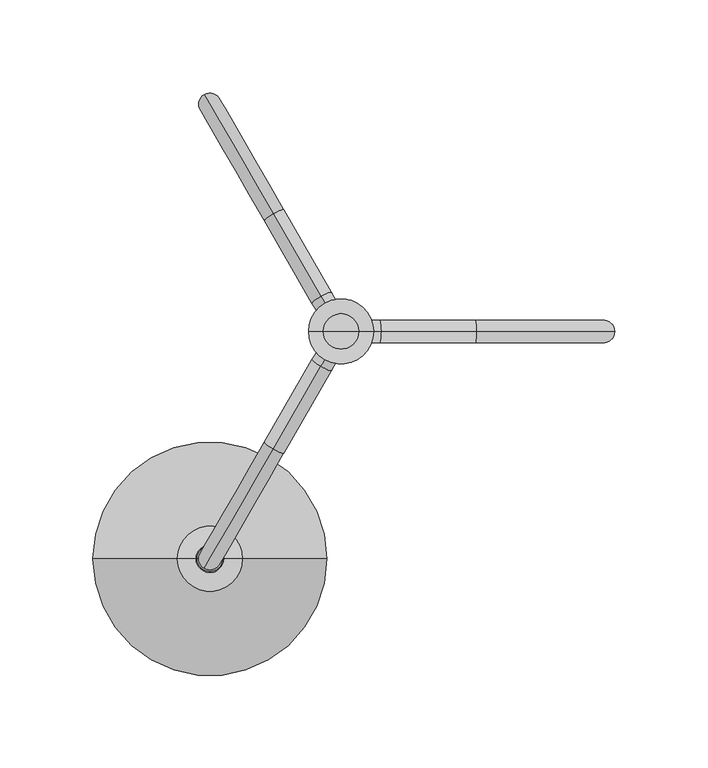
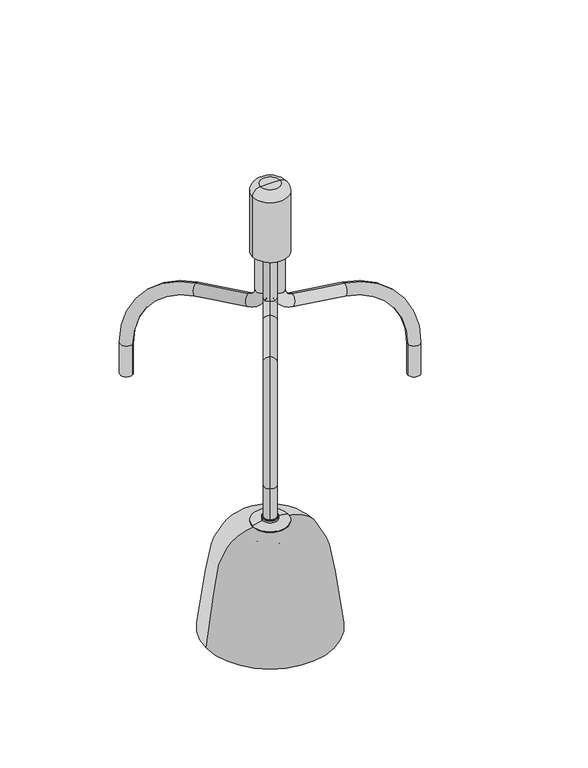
"""IFC4 building model written with IfcOpenShell, lengths in millimetres: light fixture geometry, Nuura - Asteea 3 - Ceiling Based : Nuura - Asteea 3 - Ceiling Based."""

from ifc_helpers import new_model, si_unit, point, frame, origin, place, context, project, spatial, polyline, circle_curve, ellipse_curve, trimmed, source, transform, mapped, element, save
from ifc_brep_helpers import plane_surface, cylinder_surface, revolved_surface, spline_curve, advanced_brep


def light_fixture_08d55318(model_context):
    return source(origin(), model_context, "Body", "AdvancedBrep", [
        advanced_brep(
        [(9.5, 0.0, 1784.4), (-9.5, 0.0, 1784.4), (0.0, 0.0, 1784.4), (17.5, 0.0, 1776.4), (-17.5, 0.0, 1776.4), (17.5, 0.0, 1714.3418133), (-17.5, 0.0, 1714.3418133), (0.0, 0.0, 1714.3418133)],
        [
            (0, 1, circle_curve(frame((0.0, 0.0, 1784.4), z_axis=(0.0, 0.0, 1.0), x_axis=(-1.0, 0.0, 0.0)), 9.5)),
            (1, 2),
            (2, 0),
            (1, 0, circle_curve(frame((0.0, 0.0, 1784.4), z_axis=(0.0, 0.0, 1.0), x_axis=(-1.0, 0.0, 0.0)), 9.5)),
            (3, 4, circle_curve(frame((0.0, 0.0, 1776.4), z_axis=(0.0, 0.0, 1.0), x_axis=(-1.0, 0.0, 0.0)), 17.5)),
            (4, 1, circle_curve(frame((-9.5, 0.0, 1776.4), z_axis=(0.0, 1.0, 0.0), x_axis=(1.0, 0.0, 0.0)), 8.0)),
            (0, 3, circle_curve(frame((9.5, 0.0, 1776.4), z_axis=(0.0, 1.0, 0.0), x_axis=(-1.0, 0.0, 0.0)), 8.0)),
            (4, 3, circle_curve(frame((0.0, 0.0, 1776.4), z_axis=(0.0, 0.0, 1.0), x_axis=(-1.0, 0.0, 0.0)), 17.5)),
            (5, 6, circle_curve(frame((0.0, 0.0, 1714.3418133), z_axis=(0.0, 0.0, 1.0), x_axis=(-1.0, 0.0, 0.0)), 17.5)),
            (6, 4),
            (3, 5),
            (6, 5, circle_curve(frame((0.0, 0.0, 1714.3418133), z_axis=(0.0, 0.0, 1.0), x_axis=(-1.0, 0.0, 0.0)), 17.5)),
            (7, 6),
            (5, 7),
        ],
        [
            plane_surface(frame((0.0, 0.0, 1784.4), z_axis=(0.0, 0.0, 1.0), x_axis=(-1.0, 0.0, 0.0))),
            revolved_surface(trimmed(ellipse_curve(frame((-9.5, 0.0, 1776.4), z_axis=(0.0, -1.0, 0.0), x_axis=(1.0, 0.0, 0.0)), 8.0, 8.0), [point((-9.5, 0.0, 1784.4))], [point((-17.5, 0.0, 1776.4))], True, "CARTESIAN"), (0.0, 0.0, 1895.9791403), (0.0, 0.0, -1.0)),
            cylinder_surface(frame((0.0, 0.0, 1895.9791403), z_axis=(0.0, 0.0, -1.0), x_axis=(-1.0, 0.0, 0.0)), 17.5),
            plane_surface(frame((0.0, 0.0, 1714.3418133), z_axis=(0.0, 0.0, -1.0), x_axis=(-1.0, 0.0, 0.0))),
        ],
        [
            (0, [[1, 2, 3]]),
            (0, [[4, -3, -2]]),
            (1, [[5, 6, -1, 7]]),
            (1, [[8, -7, -4, -6]]),
            (2, [[9, 10, -5, 11]]),
            (2, [[12, -11, -8, -10]]),
            (3, [[13, -9, 14]]),
            (3, [[-14, -12, -13]]),
        ],
    ),
        advanced_brep(
        [(135.1014748, 0.0, 1538.173702), (147.1014748, 0.0, 1538.173702), (135.1014748, 0.0, 1569.8918331), (147.1014748, 0.0, 1569.8918331), (73.0703615, 0.0, 1655.054887), (71.4002843, 0.0, 1643.1716702), (20.0773649, 0.0, 1650.3846361), (21.7474421, 0.0, 1662.2678529), (14.0, 0.0, 1671.1802655), (2.0, 0.0, 1671.1802655), (2.0, 0.0, 1729.4), (14.0, 0.0, 1729.4)],
        [
            (0, 1, circle_curve(frame((141.1014748, 0.0, 1538.173702), z_axis=(0.0, 0.0, -1.0), x_axis=(1.0, 0.0, 0.0)), 6.0)),
            (1, 0, circle_curve(frame((141.1014748, 0.0, 1538.173702), z_axis=(0.0, 0.0, -1.0), x_axis=(1.0, 0.0, 0.0)), 6.0)),
            (0, 2),
            (2, 3, circle_curve(frame((141.1014748, 0.0, 1569.8918331), z_axis=(0.0, 0.0, -1.0), x_axis=(1.0, 0.0, 0.0)), 6.0)),
            (3, 1),
            (3, 2, circle_curve(frame((141.1014748, 0.0, 1569.8918331), z_axis=(0.0, 0.0, -1.0), x_axis=(1.0, 0.0, 0.0)), 6.0)),
            (4, 3, circle_curve(frame((61.1014748, 0.0, 1569.8918331), z_axis=(0.0, 1.0, 0.0), x_axis=(1.0, 0.0, 0.0)), 86.0)),
            (2, 5, circle_curve(frame((61.1014748, 0.0, 1569.8918331), z_axis=(0.0, -1.0, 0.0), x_axis=(1.0, 0.0, 0.0)), 74.0)),
            (5, 4, circle_curve(frame((72.2353229, 0.0, 1649.1132786), z_axis=(0.9902680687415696, 0.0, -0.13917310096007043), x_axis=(0.13917310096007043, 0.0, 0.9902680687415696)), 6.0)),
            (4, 5, circle_curve(frame((72.2353229, 0.0, 1649.1132786), z_axis=(0.9902680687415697, 0.0, -0.13917310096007), x_axis=(0.13917310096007, 0.0, 0.9902680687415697)), 6.0)),
            (5, 6),
            (6, 7, circle_curve(frame((20.9124035, 0.0, 1656.3262445), z_axis=(0.9902680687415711, 0.0, -0.13917310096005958), x_axis=(0.13917310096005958, 0.0, 0.9902680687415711)), 6.0)),
            (7, 4),
            (7, 6, circle_curve(frame((20.9124035, 0.0, 1656.3262445), z_axis=(0.9902680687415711, 0.0, -0.13917310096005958), x_axis=(0.13917310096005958, 0.0, 0.9902680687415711)), 6.0)),
            (8, 7, circle_curve(frame((23.0, 0.0, 1671.1802655), z_axis=(0.0, -1.0, 0.0), x_axis=(-0.13917310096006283, 0.0, -0.9902680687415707)), 9.0)),
            (6, 9, circle_curve(frame((23.0, 0.0, 1671.1802655), z_axis=(0.0, 1.0, 0.0), x_axis=(-0.13917310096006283, 0.0, -0.9902680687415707)), 21.0)),
            (9, 8, circle_curve(frame((8.0, 0.0, 1671.1802655), z_axis=(0.0, 0.0, -1.0), x_axis=(1.0, 0.0, 0.0)), 6.0)),
            (8, 9, circle_curve(frame((8.0, 0.0, 1671.1802655), z_axis=(0.0, 0.0, -1.0), x_axis=(1.0, 0.0, 0.0)), 6.0)),
            (10, 11, circle_curve(frame((8.0, 0.0, 1729.4), z_axis=(0.0, 0.0, 1.0), x_axis=(1.0, 0.0, 0.0)), 6.0)),
            (11, 10, circle_curve(frame((8.0, 0.0, 1729.4), z_axis=(0.0, 0.0, 1.0), x_axis=(1.0, 0.0, 0.0)), 6.0)),
            (9, 10),
            (11, 8),
        ],
        [
            plane_surface(frame((141.1014748, 0.0, 1538.173702), z_axis=(0.0, 0.0, -1.0), x_axis=(0.0, 1.0, 0.0))),
            cylinder_surface(frame((141.1014748, 0.0, 1538.173702), z_axis=(0.0, 0.0, -1.0), x_axis=(1.0, 0.0, 0.0)), 6.0),
            revolved_surface(trimmed(ellipse_curve(frame((141.1014748, 0.0, 1569.8918331), z_axis=(0.0, 0.0, -1.0), x_axis=(1.0, 0.0, 0.0)), 6.0, 6.0), [point((135.1014748, 0.0, 1569.8918331))], [point((147.1014748, 0.0, 1569.8918331))], True, "CARTESIAN"), (61.1014748, 0.0, 1569.8918331), (0.0, -1.0, 0.0)),
            revolved_surface(trimmed(ellipse_curve(frame((141.1014748, 0.0, 1569.8918331), z_axis=(0.0, 0.0, -1.0), x_axis=(1.0, 0.0, 0.0)), 6.0, 6.0), [point((147.1014748, 0.0, 1569.8918331))], [point((135.1014748, 0.0, 1569.8918331))], True, "CARTESIAN"), (61.1014748, 0.0, 1569.8918331), (0.0, -1.0, 0.0)),
            cylinder_surface(frame((72.2353229, 0.0, 1649.1132786), z_axis=(0.9902680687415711, 0.0, -0.13917310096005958), x_axis=(0.13917310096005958, 0.0, 0.9902680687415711)), 6.0),
            revolved_surface(trimmed(ellipse_curve(frame((20.9124035, 0.0, 1656.3262445), z_axis=(0.9902680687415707, 0.0, -0.13917310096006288), x_axis=(0.13917310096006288, 0.0, 0.9902680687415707)), 6.0, 6.0), [point((20.0773649, 0.0, 1650.3846361))], [point((21.7474421, 0.0, 1662.2678529))], True, "CARTESIAN"), (23.0, 0.0, 1671.1802655), (0.0, 1.0, 0.0)),
            revolved_surface(trimmed(ellipse_curve(frame((20.9124035, 0.0, 1656.3262445), z_axis=(0.9902680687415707, 0.0, -0.13917310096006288), x_axis=(0.13917310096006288, 0.0, 0.9902680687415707)), 6.0, 6.0), [point((21.7474421, 0.0, 1662.2678529))], [point((20.0773649, 0.0, 1650.3846361))], True, "CARTESIAN"), (23.0, 0.0, 1671.1802655), (0.0, 1.0, 0.0)),
            plane_surface(frame((8.0, 0.0, 1729.4), z_axis=(0.0, 0.0, 1.0), x_axis=(0.0, 1.0, 0.0))),
            cylinder_surface(frame((8.0, 0.0, 1671.1802655), z_axis=(0.0, 0.0, -1.0), x_axis=(1.0, 0.0, 0.0)), 6.0),
        ],
        [
            (0, [[1, 2]]),
            (1, [[-1, 3, 4, 5]]),
            (1, [[-2, -5, 6, -3]]),
            (2, [[7, -4, 8, 9]]),
            (3, [[-8, -6, -7, 10]]),
            (4, [[-9, 11, 12, 13]]),
            (4, [[-10, -13, 14, -11]]),
            (5, [[15, -12, 16, 17]]),
            (6, [[-16, -14, -15, 18]]),
            (7, [[19, 20]]),
            (8, [[-17, 21, -20, 22]]),
            (8, [[-18, -22, -19, -21]]),
        ],
    ),
        advanced_brep(
        [(-67.5507374, 117.0013093, 1538.173702), (-73.5507374, 127.3936141, 1538.173702), (-67.5507374, 117.0013093, 1569.8918331), (-73.5507374, 127.3936141, 1569.8918331), (-36.5351807, 63.2807893, 1655.054887), (-35.7001421, 61.83446, 1643.1716702), (-10.0386824, 17.387508, 1650.3846361), (-10.8737211, 18.8338373, 1662.2678529), (-7.0, 12.1243557, 1671.1802655), (-1.0, 1.7320508, 1671.1802655), (-1.0, 1.7320508, 1729.4), (-7.0, 12.1243557, 1729.4)],
        [
            (0, 1, circle_curve(frame((-70.5507374, 122.1974617, 1538.173702), z_axis=(0.0, 0.0, -1.0), x_axis=(-0.49999999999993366, 0.8660254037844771, 0.0)), 6.0)),
            (1, 0, circle_curve(frame((-70.5507374, 122.1974617, 1538.173702), z_axis=(0.0, 0.0, -1.0), x_axis=(-0.49999999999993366, 0.8660254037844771, 0.0)), 6.0)),
            (0, 2),
            (2, 3, circle_curve(frame((-70.5507374, 122.1974617, 1569.8918331), z_axis=(0.0, 0.0, -1.0), x_axis=(-0.49999999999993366, 0.8660254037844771, 0.0)), 6.0)),
            (3, 1),
            (3, 2, circle_curve(frame((-70.5507374, 122.1974617, 1569.8918331), z_axis=(0.0, 0.0, -1.0), x_axis=(-0.49999999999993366, 0.8660254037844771, 0.0)), 6.0)),
            (4, 3, circle_curve(frame((-30.5507374, 52.9154294, 1569.8918331), z_axis=(-0.8660254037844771, -0.49999999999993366, 0.0), x_axis=(-0.49999999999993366, 0.8660254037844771, 0.0)), 86.0)),
            (2, 5, circle_curve(frame((-30.5507374, 52.9154294, 1569.8918331), z_axis=(0.8660254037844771, 0.49999999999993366, 0.0), x_axis=(-0.49999999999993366, 0.8660254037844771, 0.0)), 74.0)),
            (5, 4, circle_curve(frame((-36.1176614, 62.5576247, 1649.1132786), z_axis=(-0.49513403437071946, 0.8575973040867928, -0.1391731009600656), x_axis=(-0.06958655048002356, 0.12052744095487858, 0.9902680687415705)), 6.0)),
            (4, 5, circle_curve(frame((-36.1176614, 62.5576247, 1649.1132786), z_axis=(-0.4951340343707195, 0.8575973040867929, -0.13917310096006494), x_axis=(-0.06958655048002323, 0.12052744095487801, 0.9902680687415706)), 6.0)),
            (5, 6),
            (6, 7, circle_curve(frame((-10.4562017, 18.1106727, 1656.3262445), z_axis=(-0.49513403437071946, 0.8575973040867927, -0.13917310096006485), x_axis=(-0.06958655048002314, 0.12052744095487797, 0.9902680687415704)), 6.0)),
            (7, 4),
            (7, 6, circle_curve(frame((-10.4562017, 18.1106727, 1656.3262445), z_axis=(-0.49513403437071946, 0.8575973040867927, -0.13917310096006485), x_axis=(-0.06958655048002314, 0.12052744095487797, 0.9902680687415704)), 6.0)),
            (8, 7, circle_curve(frame((-11.5, 19.9185843, 1671.1802655), z_axis=(0.8660254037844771, 0.49999999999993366, 0.0), x_axis=(0.06958655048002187, -0.12052744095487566, -0.9902680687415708)), 9.0)),
            (6, 9, circle_curve(frame((-11.5, 19.9185843, 1671.1802655), z_axis=(-0.8660254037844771, -0.49999999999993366, 0.0), x_axis=(0.06958655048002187, -0.12052744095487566, -0.9902680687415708)), 21.0)),
            (9, 8, circle_curve(frame((-4.0, 6.9282032, 1671.1802655), z_axis=(0.0, 0.0, -1.0000000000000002), x_axis=(-0.4999999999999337, 0.8660254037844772, 0.0)), 6.0)),
            (8, 9, circle_curve(frame((-4.0, 6.9282032, 1671.1802655), z_axis=(0.0, 0.0, -1.0), x_axis=(-0.49999999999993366, 0.8660254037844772, 0.0)), 6.0)),
            (10, 11, circle_curve(frame((-4.0, 6.9282032, 1729.4), z_axis=(0.0, 0.0, 1.0), x_axis=(-0.4999999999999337, 0.866025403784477, 0.0)), 6.0)),
            (11, 10, circle_curve(frame((-4.0, 6.9282032, 1729.4), z_axis=(0.0, 0.0, 1.0), x_axis=(-0.4999999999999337, 0.866025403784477, 0.0)), 6.0)),
            (9, 10),
            (11, 8),
        ],
        [
            plane_surface(frame((-70.5507374, 122.1974617, 1538.173702), z_axis=(0.0, 0.0, -1.0000000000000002), x_axis=(-0.8660254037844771, -0.49999999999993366, 0.0))),
            cylinder_surface(frame((-70.5507374, 122.1974617, 1538.173702), z_axis=(0.0, 0.0, -1.0000000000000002), x_axis=(-0.49999999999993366, 0.8660254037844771, 0.0)), 6.0),
            revolved_surface(trimmed(ellipse_curve(frame((-70.5507374, 122.1974617, 1569.8918331), z_axis=(0.0, 0.0, -1.0000000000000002), x_axis=(-0.49999999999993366, 0.8660254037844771, 0.0)), 6.0, 6.0), [point((-67.5507374, 117.0013093, 1569.8918331))], [point((-73.5507374, 127.3936141, 1569.8918331))], True, "CARTESIAN"), (-30.5507374, 52.9154294, 1569.8918331), (0.8660254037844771, 0.49999999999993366, 0.0)),
            revolved_surface(trimmed(ellipse_curve(frame((-70.5507374, 122.1974617, 1569.8918331), z_axis=(0.0, 0.0, -1.0000000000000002), x_axis=(-0.49999999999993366, 0.8660254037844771, 0.0)), 6.0, 6.0), [point((-73.5507374, 127.3936141, 1569.8918331))], [point((-67.5507374, 117.0013093, 1569.8918331))], True, "CARTESIAN"), (-30.5507374, 52.9154294, 1569.8918331), (0.8660254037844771, 0.49999999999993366, 0.0)),
            cylinder_surface(frame((-36.1176614, 62.5576247, 1649.1132786), z_axis=(-0.49513403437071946, 0.8575973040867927, -0.13917310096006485), x_axis=(-0.06958655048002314, 0.12052744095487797, 0.9902680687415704)), 6.0),
            revolved_surface(trimmed(ellipse_curve(frame((-10.4562017, 18.1106727, 1656.3262445), z_axis=(-0.4951340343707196, 0.8575973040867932, -0.13917310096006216), x_axis=(-0.06958655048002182, 0.1205274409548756, 0.9902680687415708)), 6.0, 6.0), [point((-10.0386824, 17.387508, 1650.3846361))], [point((-10.8737211, 18.8338373, 1662.2678529))], True, "CARTESIAN"), (-11.5, 19.9185843, 1671.1802655), (-0.8660254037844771, -0.49999999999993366, 0.0)),
            revolved_surface(trimmed(ellipse_curve(frame((-10.4562017, 18.1106727, 1656.3262445), z_axis=(-0.4951340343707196, 0.8575973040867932, -0.13917310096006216), x_axis=(-0.06958655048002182, 0.1205274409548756, 0.9902680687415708)), 6.0, 6.0), [point((-10.8737211, 18.8338373, 1662.2678529))], [point((-10.0386824, 17.387508, 1650.3846361))], True, "CARTESIAN"), (-11.5, 19.9185843, 1671.1802655), (-0.8660254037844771, -0.49999999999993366, 0.0)),
            plane_surface(frame((-4.0, 6.9282032, 1729.4), z_axis=(0.0, 0.0, 1.0), x_axis=(-0.866025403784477, -0.49999999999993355, 0.0))),
            cylinder_surface(frame((-4.0, 6.9282032, 1671.1802655), z_axis=(0.0, 0.0, -1.0000000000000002), x_axis=(-0.4999999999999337, 0.866025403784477, 0.0)), 6.0),
        ],
        [
            (0, [[1, 2]]),
            (1, [[-1, 3, 4, 5]]),
            (1, [[-2, -5, 6, -3]]),
            (2, [[7, -4, 8, 9]]),
            (3, [[-8, -6, -7, 10]]),
            (4, [[-9, 11, 12, 13]]),
            (4, [[-10, -13, 14, -11]]),
            (5, [[15, -12, 16, 17]]),
            (6, [[-16, -14, -15, 18]]),
            (7, [[19, 20]]),
            (8, [[-17, 21, -20, 22]]),
            (8, [[-18, -22, -19, -21]]),
        ],
    ),
        advanced_brep(
        [(-67.5507374, -117.0013093, 1538.173702), (-73.5507374, -127.3936141, 1538.173702), (-67.5507374, -117.0013093, 1569.8918331), (-73.5507374, -127.3936141, 1569.8918331), (-36.5351807, -63.2807893, 1655.054887), (-35.7001421, -61.83446, 1643.1716702), (-10.0386824, -17.387508, 1650.3846361), (-10.8737211, -18.8338373, 1662.2678529), (-7.0, -12.1243557, 1671.1802655), (-1.0, -1.7320508, 1671.1802655), (-1.0, -1.7320508, 1729.4), (-7.0, -12.1243557, 1729.4)],
        [
            (0, 1, circle_curve(frame((-70.5507374, -122.1974617, 1538.173702), z_axis=(0.0, 0.0, -1.0), x_axis=(-0.5000000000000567, -0.866025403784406, 0.0)), 6.0)),
            (1, 0, circle_curve(frame((-70.5507374, -122.1974617, 1538.173702), z_axis=(0.0, 0.0, -1.0), x_axis=(-0.5000000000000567, -0.866025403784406, 0.0)), 6.0)),
            (0, 2),
            (2, 3, circle_curve(frame((-70.5507374, -122.1974617, 1569.8918331), z_axis=(0.0, 0.0, -1.0), x_axis=(-0.5000000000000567, -0.866025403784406, 0.0)), 6.0)),
            (3, 1),
            (3, 2, circle_curve(frame((-70.5507374, -122.1974617, 1569.8918331), z_axis=(0.0, 0.0, -1.0), x_axis=(-0.5000000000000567, -0.866025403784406, 0.0)), 6.0)),
            (4, 3, circle_curve(frame((-30.5507374, -52.9154294, 1569.8918331), z_axis=(0.866025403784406, -0.5000000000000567, 0.0), x_axis=(-0.5000000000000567, -0.866025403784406, 0.0)), 86.0)),
            (2, 5, circle_curve(frame((-30.5507374, -52.9154294, 1569.8918331), z_axis=(-0.866025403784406, 0.5000000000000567, 0.0), x_axis=(-0.5000000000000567, -0.866025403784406, 0.0)), 74.0)),
            (5, 4, circle_curve(frame((-36.1176614, -62.5576247, 1649.1132786), z_axis=(-0.49513403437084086, -0.8575973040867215, -0.13917310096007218), x_axis=(-0.06958655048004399, -0.1205274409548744, 0.9902680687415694)), 6.0)),
            (4, 5, circle_curve(frame((-36.1176614, -62.5576247, 1649.1132786), z_axis=(-0.4951340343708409, -0.8575973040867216, -0.13917310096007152), x_axis=(-0.06958655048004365, -0.12052744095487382, 0.9902680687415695)), 6.0)),
            (5, 6),
            (6, 7, circle_curve(frame((-10.4562017, -18.1106727, 1656.3262445), z_axis=(-0.4951340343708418, -0.8575973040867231, -0.13917310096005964), x_axis=(-0.06958655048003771, -0.12052744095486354, 0.9902680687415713)), 6.0)),
            (7, 4),
            (7, 6, circle_curve(frame((-10.4562017, -18.1106727, 1656.3262445), z_axis=(-0.4951340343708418, -0.8575973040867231, -0.13917310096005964), x_axis=(-0.06958655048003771, -0.12052744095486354, 0.9902680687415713)), 6.0)),
            (8, 7, circle_curve(frame((-11.5, -19.9185843, 1671.1802655), z_axis=(-0.866025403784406, 0.5000000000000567, 0.0), x_axis=(0.06958655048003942, 0.1205274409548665, -0.9902680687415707)), 9.0)),
            (6, 9, circle_curve(frame((-11.5, -19.9185843, 1671.1802655), z_axis=(0.866025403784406, -0.5000000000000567, 0.0), x_axis=(0.06958655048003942, 0.1205274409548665, -0.9902680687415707)), 21.0)),
            (9, 8, circle_curve(frame((-4.0, -6.9282032, 1671.1802655), z_axis=(0.0, 0.0, -1.0000000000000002), x_axis=(-0.5000000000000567, -0.866025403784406, 0.0)), 6.0)),
            (8, 9, circle_curve(frame((-4.0, -6.9282032, 1671.1802655), z_axis=(0.0, 0.0, -1.0), x_axis=(-0.5000000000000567, -0.866025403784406, 0.0)), 6.0)),
            (10, 11, circle_curve(frame((-4.0, -6.9282032, 1729.4), z_axis=(0.0, 0.0, 1.0), x_axis=(-0.5000000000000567, -0.866025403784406, 0.0)), 6.0)),
            (11, 10, circle_curve(frame((-4.0, -6.9282032, 1729.4), z_axis=(0.0, 0.0, 1.0), x_axis=(-0.5000000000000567, -0.866025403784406, 0.0)), 6.0)),
            (9, 10),
            (11, 8),
        ],
        [
            plane_surface(frame((-70.5507374, -122.1974617, 1538.173702), z_axis=(0.0, 0.0, -1.0), x_axis=(0.866025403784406, -0.5000000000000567, 0.0))),
            cylinder_surface(frame((-70.5507374, -122.1974617, 1538.173702), z_axis=(0.0, 0.0, -1.0), x_axis=(-0.5000000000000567, -0.866025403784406, 0.0)), 6.0),
            revolved_surface(trimmed(ellipse_curve(frame((-70.5507374, -122.1974617, 1569.8918331), z_axis=(0.0, 0.0, -1.0), x_axis=(-0.5000000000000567, -0.866025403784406, 0.0)), 6.0, 6.0), [point((-67.5507374, -117.0013093, 1569.8918331))], [point((-73.5507374, -127.3936141, 1569.8918331))], True, "CARTESIAN"), (-30.5507374, -52.9154294, 1569.8918331), (-0.866025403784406, 0.5000000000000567, 0.0)),
            revolved_surface(trimmed(ellipse_curve(frame((-70.5507374, -122.1974617, 1569.8918331), z_axis=(0.0, 0.0, -1.0), x_axis=(-0.5000000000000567, -0.866025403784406, 0.0)), 6.0, 6.0), [point((-73.5507374, -127.3936141, 1569.8918331))], [point((-67.5507374, -117.0013093, 1569.8918331))], True, "CARTESIAN"), (-30.5507374, -52.9154294, 1569.8918331), (-0.866025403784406, 0.5000000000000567, 0.0)),
            cylinder_surface(frame((-36.1176614, -62.5576247, 1649.1132786), z_axis=(-0.4951340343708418, -0.8575973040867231, -0.13917310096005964), x_axis=(-0.06958655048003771, -0.12052744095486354, 0.9902680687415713)), 6.0),
            revolved_surface(trimmed(ellipse_curve(frame((-10.4562017, -18.1106727, 1656.3262445), z_axis=(-0.4951340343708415, -0.8575973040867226, -0.139173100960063), x_axis=(-0.0695865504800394, -0.12052744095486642, 0.9902680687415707)), 6.0, 6.0), [point((-10.0386824, -17.387508, 1650.3846361))], [point((-10.8737211, -18.8338373, 1662.2678529))], True, "CARTESIAN"), (-11.5, -19.9185843, 1671.1802655), (0.866025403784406, -0.5000000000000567, 0.0)),
            revolved_surface(trimmed(ellipse_curve(frame((-10.4562017, -18.1106727, 1656.3262445), z_axis=(-0.4951340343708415, -0.8575973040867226, -0.139173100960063), x_axis=(-0.0695865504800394, -0.12052744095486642, 0.9902680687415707)), 6.0, 6.0), [point((-10.8737211, -18.8338373, 1662.2678529))], [point((-10.0386824, -17.387508, 1650.3846361))], True, "CARTESIAN"), (-11.5, -19.9185843, 1671.1802655), (0.866025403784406, -0.5000000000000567, 0.0)),
            plane_surface(frame((-4.0, -6.9282032, 1729.4), z_axis=(0.0, 0.0, 1.0), x_axis=(0.866025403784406, -0.5000000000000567, 0.0))),
            cylinder_surface(frame((-4.0, -6.9282032, 1671.1802655), z_axis=(0.0, 0.0, -1.0), x_axis=(-0.5000000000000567, -0.866025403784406, 0.0)), 6.0),
        ],
        [
            (0, [[1, 2]]),
            (1, [[-1, 3, 4, 5]]),
            (1, [[-2, -5, 6, -3]]),
            (2, [[7, -4, 8, 9]]),
            (3, [[-8, -6, -7, 10]]),
            (4, [[-9, 11, 12, 13]]),
            (4, [[-10, -13, 14, -11]]),
            (5, [[15, -12, 16, 17]]),
            (6, [[-16, -14, -15, 18]]),
            (7, [[19, 20]]),
            (8, [[-17, 21, -20, 22]]),
            (8, [[-18, -22, -19, -21]]),
        ],
    ),
        advanced_brep(
        [(-70.5507375, -122.1974617, 1538.1737001), (-77.3711256, -122.1974617, 1538.1737001), (-63.7303492, -122.1974617, 1538.1737001), (-77.8998853, -122.1974617, 1537.6449405), (-63.2015895, -122.1974617, 1537.6449405), (-77.8998853, -122.1974617, 1535.5758575), (-63.2015895, -122.1974617, 1535.5758575), (-88.0332812, -122.1974617, 1533.6535261), (-53.0681936, -122.1974617, 1533.6535261), (-87.7625196, -122.1974617, 1532.6712076), (-53.3389552, -122.1974617, 1532.6712076), (-70.5507375, -122.1974617, 1532.6712076)],
        [
            (0, 1),
            (1, 2, circle_curve(frame((-70.5507374, -122.1974617, 1538.1737001), z_axis=(0.0, 0.0, 1.0), x_axis=(-1.0, 0.0, 0.0)), 6.8203882)),
            (2, 0),
            (2, 1, circle_curve(frame((-70.5507374, -122.1974617, 1538.1737001), z_axis=(0.0, 0.0, 1.0), x_axis=(-1.0, 0.0, 0.0)), 6.8203882)),
            (1, 3, circle_curve(frame((-77.3711256, -122.1974617, 1537.6449405), z_axis=(0.0, -1.0, 0.0), x_axis=(1.0, 0.0, 0.0)), 0.5287596)),
            (3, 4, circle_curve(frame((-70.5507374, -122.1974617, 1537.6449405), z_axis=(0.0, 0.0, 1.0), x_axis=(-1.0, 0.0, 0.0)), 7.3491479)),
            (4, 2, circle_curve(frame((-63.7303492, -122.1974617, 1537.6449405), z_axis=(0.0, -1.0, 0.0), x_axis=(-1.0, 0.0, 0.0)), 0.5287596)),
            (4, 3, circle_curve(frame((-70.5507374, -122.1974617, 1537.6449405), z_axis=(0.0, 0.0, 1.0), x_axis=(-1.0, 0.0, 0.0)), 7.3491479)),
            (3, 5),
            (5, 6, circle_curve(frame((-70.5507374, -122.1974617, 1535.5758575), z_axis=(0.0, 0.0, 1.0), x_axis=(-1.0, 0.0, 0.0)), 7.3491479)),
            (6, 4),
            (6, 5, circle_curve(frame((-70.5507374, -122.1974617, 1535.5758575), z_axis=(0.0, 0.0, 1.0), x_axis=(-1.0, 0.0, 0.0)), 7.3491479)),
            (5, 7, circle_curve(frame((-71.1966266, -122.1974617, 1472.5704336), z_axis=(0.0, -1.0, 0.0), x_axis=(1.0, 0.0, 0.0)), 63.3610063)),
            (7, 8, circle_curve(frame((-70.5507374, -122.1974617, 1533.6535261), z_axis=(0.0, 0.0, 1.0), x_axis=(-1.0, 0.0, 0.0)), 17.4825438)),
            (8, 6, circle_curve(frame((-69.9048482, -122.1974617, 1472.5704336), z_axis=(0.0, -1.0, 0.0), x_axis=(-1.0, 0.0, 0.0)), 63.3610063)),
            (8, 7, circle_curve(frame((-70.5507374, -122.1974617, 1533.6535261), z_axis=(0.0, 0.0, 1.0), x_axis=(-1.0, 0.0, 0.0)), 17.4825438)),
            (7, 9),
            (9, 10, circle_curve(frame((-70.5507374, -122.1974617, 1532.6712076), z_axis=(0.0, 0.0, 1.0), x_axis=(-1.0, 0.0, 0.0)), 17.2117822)),
            (10, 8),
            (10, 9, circle_curve(frame((-70.5507374, -122.1974617, 1532.6712076), z_axis=(0.0, 0.0, 1.0), x_axis=(-1.0, 0.0, 0.0)), 17.2117822)),
            (9, 11),
            (11, 10),
        ],
        [
            plane_surface(frame((-70.5507374, -122.1974617, 1538.1737001), z_axis=(0.0, 0.0, 1.0), x_axis=(-1.0, 0.0, 0.0))),
            revolved_surface(trimmed(ellipse_curve(frame((-77.3711256, -122.1974617, 1537.6449405), z_axis=(0.0, 1.0, 0.0), x_axis=(1.0, 0.0, 0.0)), 0.5287596, 0.5287596), [point((-77.8998853, -122.1974617, 1537.6449405))], [point((-77.3711256, -122.1974617, 1538.1737001))], True, "CARTESIAN"), (-70.5507374, -122.1974617, 1753.4570833), (0.0, 0.0, 1.0)),
            cylinder_surface(frame((-70.5507374, -122.1974617, 1753.4570833), z_axis=(0.0, 0.0, 1.0), x_axis=(-1.0, 0.0, 0.0)), 7.3491479),
            revolved_surface(trimmed(ellipse_curve(frame((-71.1966266, -122.1974617, 1472.5704336), z_axis=(0.0, 1.0, 0.0), x_axis=(1.0, 0.0, 0.0)), 63.3610063, 63.3610063), [point((-88.0332812, -122.1974617, 1533.6535261))], [point((-77.8998853, -122.1974617, 1535.5758575))], True, "CARTESIAN"), (-70.5507374, -122.1974617, 1753.4570833), (0.0, 0.0, 1.0)),
            revolved_surface(polyline([(-87.7625196, -122.1974617, 1532.6712076), (-88.0332812, -122.1974617, 1533.6535261)]), (-70.5507374, -122.1974617, 1753.4570833), (0.0, 0.0, 1.0)),
            plane_surface(frame((-70.5507374, -122.1974617, 1532.6712076), z_axis=(0.0, 0.0, -1.0), x_axis=(-1.0, 0.0, 0.0))),
        ],
        [
            (0, [[1, 2, 3]]),
            (0, [[-3, 4, -1]]),
            (1, [[-2, 5, 6, 7]]),
            (1, [[-4, -7, 8, -5]]),
            (2, [[-6, 9, 10, 11]]),
            (2, [[-8, -11, 12, -9]]),
            (3, [[-10, 13, 14, 15]]),
            (3, [[-12, -15, 16, -13]]),
            (4, [[-14, 17, 18, 19]]),
            (4, [[-16, -19, 20, -17]]),
            (5, [[-18, 21, 22]]),
            (5, [[-20, -22, -21]]),
        ],
    ),
        advanced_brep(
        [(-53.0507374, -122.1974617, 1527.6301704), (-88.0507374, -122.1974617, 1527.6301704), (-88.0507374, -122.1974617, 1525.1301704), (-53.0507374, -122.1974617, 1525.1301704), (-77.0507374, -122.1974617, 1514.1301704), (-64.0507374, -122.1974617, 1514.1301704), (-74.5507373, -122.1974617, 1514.1301704), (-66.5507375, -122.1974617, 1514.1301704), (-74.5507373, -122.1974617, 1504.0770827), (-66.5507375, -122.1974617, 1504.0770827), (-70.5507375, -122.1974617, 1504.0770827), (-70.5507375, -122.1974617, 1527.6301704)],
        [
            (0, 1, circle_curve(frame((-70.5507374, -122.1974617, 1527.6301704), z_axis=(0.0, 0.0, -1.0), x_axis=(-1.0, 0.0, 0.0)), 17.5)),
            (1, 2),
            (2, 3, circle_curve(frame((-70.5507374, -122.1974617, 1525.1301704), z_axis=(0.0, 0.0, 1.0), x_axis=(-1.0, 0.0, 0.0)), 17.5)),
            (3, 0),
            (1, 0, circle_curve(frame((-70.5507374, -122.1974617, 1527.6301704), z_axis=(0.0, 0.0, -1.0), x_axis=(-1.0, 0.0, 0.0)), 17.5)),
            (3, 2, circle_curve(frame((-70.5507374, -122.1974617, 1525.1301704), z_axis=(0.0, 0.0, 1.0), x_axis=(-1.0, 0.0, 0.0)), 17.5)),
            (2, 4, circle_curve(frame((-77.0507374, -122.1974617, 1525.1301704), z_axis=(0.0, -1.0, 0.0), x_axis=(1.0, 0.0, 0.0)), 11.0)),
            (4, 5, circle_curve(frame((-70.5507374, -122.1974617, 1514.1301704), z_axis=(0.0, 0.0, 1.0), x_axis=(-1.0, 0.0, 0.0)), 6.5)),
            (5, 3, circle_curve(frame((-64.0507374, -122.1974617, 1525.1301704), z_axis=(0.0, -1.0, 0.0), x_axis=(-1.0, 0.0, 0.0)), 11.0)),
            (5, 4, circle_curve(frame((-70.5507374, -122.1974617, 1514.1301704), z_axis=(0.0, 0.0, 1.0), x_axis=(-1.0, 0.0, 0.0)), 6.5)),
            (4, 6),
            (6, 7, circle_curve(frame((-70.5507374, -122.1974617, 1514.1301704), z_axis=(0.0, 0.0, 1.0), x_axis=(-1.0, 0.0, 0.0)), 3.9999999)),
            (7, 5),
            (7, 6, circle_curve(frame((-70.5507374, -122.1974617, 1514.1301704), z_axis=(0.0, 0.0, 1.0), x_axis=(-1.0, 0.0, 0.0)), 3.9999999)),
            (6, 8),
            (8, 9, circle_curve(frame((-70.5507374, -122.1974617, 1504.0770827), z_axis=(0.0, 0.0, 1.0), x_axis=(-1.0, 0.0, 0.0)), 3.9999999)),
            (9, 7),
            (9, 8, circle_curve(frame((-70.5507374, -122.1974617, 1504.0770827), z_axis=(0.0, 0.0, 1.0), x_axis=(-1.0, 0.0, 0.0)), 3.9999999)),
            (8, 10),
            (10, 9),
            (11, 1),
            (0, 11),
        ],
        [
            cylinder_surface(frame((-70.5507374, -122.1974617, 1753.4570833), z_axis=(0.0, 0.0, 1.0), x_axis=(-1.0, 0.0, 0.0)), 17.5),
            revolved_surface(trimmed(ellipse_curve(frame((-77.0507374, -122.1974617, 1525.1301704), z_axis=(0.0, 1.0, 0.0), x_axis=(1.0, 0.0, 0.0)), 11.0, 11.0), [point((-77.0507374, -122.1974617, 1514.1301704))], [point((-88.0507374, -122.1974617, 1525.1301704))], True, "CARTESIAN"), (-70.5507374, -122.1974617, 1753.4570833), (0.0, 0.0, 1.0)),
            plane_surface(frame((-70.5507374, -122.1974617, 1514.1301704), z_axis=(0.0, 0.0, -1.0), x_axis=(-1.0, 0.0, 0.0))),
            cylinder_surface(frame((-70.5507374, -122.1974617, 1753.4570833), z_axis=(0.0, 0.0, 1.0), x_axis=(-1.0, 0.0, 0.0)), 3.9999999),
            plane_surface(frame((-70.5507374, -122.1974617, 1504.0770827), z_axis=(0.0, 0.0, -1.0), x_axis=(-1.0, 0.0, 0.0))),
            plane_surface(frame((-70.5507374, -122.1974617, 1527.6301704), z_axis=(0.0, 0.0, 1.0), x_axis=(-1.0, 0.0, 0.0))),
        ],
        [
            (0, [[1, 2, 3, 4]]),
            (0, [[5, -4, 6, -2]]),
            (1, [[-3, 7, 8, 9]]),
            (1, [[-6, -9, 10, -7]]),
            (2, [[-8, 11, 12, 13]]),
            (2, [[-10, -13, 14, -11]]),
            (3, [[-12, 15, 16, 17]]),
            (3, [[-14, -17, 18, -15]]),
            (4, [[-16, 19, 20]]),
            (4, [[-18, -20, -19]]),
            (5, [[21, -1, 22]]),
            (5, [[-22, -5, -21]]),
        ],
    ),
        advanced_brep(
        [(-70.5507374, -122.1974617, 1433.5444432), (-73.4158312, -122.1974617, 1433.5444432), (-67.6856436, -122.1974617, 1433.5444432), (-75.4007373, -122.1974617, 1432.5770827), (-65.7007375, -122.1974617, 1432.5770827), (-75.4007373, -122.1974617, 1427.5770827), (-65.7007375, -122.1974617, 1427.5770827), (-75.4007373, -122.1974617, 1417.5770827), (-65.7007375, -122.1974617, 1417.5770827), (-93.0507373, -122.1974617, 1417.5770827), (-48.0507375, -122.1974617, 1417.5770827), (-93.0507373, -122.1974617, 1414.4660221), (-48.0507375, -122.1974617, 1414.4660221), (-92.7048312, -122.1974617, 1412.6386169), (-48.3966436, -122.1974617, 1412.6386169), (-70.5507374, -122.1974617, 1397.536652)],
        [
            (0, 1),
            (1, 2, circle_curve(frame((-70.5507374, -122.1974617, 1433.5444432), z_axis=(0.0, 0.0, 1.0), x_axis=(-1.0, 0.0, 0.0)), 2.8650938)),
            (2, 0),
            (2, 1, circle_curve(frame((-70.5507374, -122.1974617, 1433.5444432), z_axis=(0.0, 0.0, 1.0), x_axis=(-1.0, 0.0, 0.0)), 2.8650938)),
            (1, 3),
            (3, 4, circle_curve(frame((-70.5507374, -122.1974617, 1432.5770827), z_axis=(0.0, 0.0, 1.0), x_axis=(-1.0, 0.0, 0.0)), 4.8499999)),
            (4, 2),
            (4, 3, circle_curve(frame((-70.5507374, -122.1974617, 1432.5770827), z_axis=(0.0, 0.0, 1.0), x_axis=(-1.0, 0.0, 0.0)), 4.8499999)),
            (3, 5),
            (5, 6, circle_curve(frame((-70.5507374, -122.1974617, 1427.5770827), z_axis=(0.0, 0.0, 1.0), x_axis=(-1.0, 0.0, 0.0)), 4.8499999)),
            (6, 4),
            (6, 5, circle_curve(frame((-70.5507374, -122.1974617, 1427.5770827), z_axis=(0.0, 0.0, 1.0), x_axis=(-1.0, 0.0, 0.0)), 4.8499999)),
            (5, 7),
            (7, 8, circle_curve(frame((-70.5507374, -122.1974617, 1417.5770827), z_axis=(0.0, 0.0, 1.0), x_axis=(-1.0, 0.0, 0.0)), 4.8499999)),
            (8, 6),
            (8, 7, circle_curve(frame((-70.5507374, -122.1974617, 1417.5770827), z_axis=(0.0, 0.0, 1.0), x_axis=(-1.0, 0.0, 0.0)), 4.8499999)),
            (7, 9),
            (9, 10, circle_curve(frame((-70.5507374, -122.1974617, 1417.5770827), z_axis=(0.0, 0.0, 1.0), x_axis=(-1.0, 0.0, 0.0)), 22.4999999)),
            (10, 8),
            (10, 9, circle_curve(frame((-70.5507374, -122.1974617, 1417.5770827), z_axis=(0.0, 0.0, 1.0), x_axis=(-1.0, 0.0, 0.0)), 22.4999999)),
            (9, 11),
            (11, 12, circle_curve(frame((-70.5507374, -122.1974617, 1414.4660221), z_axis=(0.0, 0.0, 1.0), x_axis=(-1.0, 0.0, 0.0)), 22.4999999)),
            (12, 10),
            (12, 11, circle_curve(frame((-70.5507374, -122.1974617, 1414.4660221), z_axis=(0.0, 0.0, 1.0), x_axis=(-1.0, 0.0, 0.0)), 22.4999999)),
            (11, 13, circle_curve(frame((-88.0507373, -122.1974617, 1414.4660221), z_axis=(0.0, -1.0, 0.0), x_axis=(1.0, 0.0, 0.0)), 5.0)),
            (13, 14, circle_curve(frame((-70.5507374, -122.1974617, 1412.6386169), z_axis=(0.0, 0.0, 1.0), x_axis=(-1.0, 0.0, 0.0)), 22.1540938)),
            (14, 12, circle_curve(frame((-53.0507375, -122.1974617, 1414.4660221), z_axis=(0.0, -1.0, 0.0), x_axis=(-1.0, 0.0, 0.0)), 5.0)),
            (14, 13, circle_curve(frame((-70.5507374, -122.1974617, 1412.6386169), z_axis=(0.0, 0.0, 1.0), x_axis=(-1.0, 0.0, 0.0)), 22.1540938)),
            (13, 15, circle_curve(frame((-70.5507373, -122.1974617, 1421.337304), z_axis=(0.0, -1.0, 0.0), x_axis=(1.0, 0.0, 0.0)), 23.800652)),
            (15, 14, circle_curve(frame((-70.5507375, -122.1974617, 1421.337304), z_axis=(0.0, -1.0, 0.0), x_axis=(-1.0, 0.0, 0.0)), 23.800652)),
        ],
        [
            plane_surface(frame((-70.5507374, -122.1974617, 1433.5444432), z_axis=(0.0, 0.0, 1.0), x_axis=(-1.0, 0.0, 0.0))),
            revolved_surface(polyline([(-75.4007373, -122.1974617, 1432.5770827), (-73.4158312, -122.1974617, 1433.5444432)]), (-70.5507374, -122.1974617, 1753.4570833), (0.0, 0.0, 1.0)),
            cylinder_surface(frame((-70.5507374, -122.1974617, 1753.4570833), z_axis=(0.0, 0.0, 1.0), x_axis=(-1.0, 0.0, 0.0)), 4.8499999),
            plane_surface(frame((-70.5507374, -122.1974617, 1417.5770827), z_axis=(0.0, 0.0, 1.0), x_axis=(-1.0, 0.0, 0.0))),
            cylinder_surface(frame((-70.5507374, -122.1974617, 1753.4570833), z_axis=(0.0, 0.0, 1.0), x_axis=(-1.0, 0.0, 0.0)), 22.4999999),
            revolved_surface(trimmed(ellipse_curve(frame((-88.0507373, -122.1974617, 1414.4660221), z_axis=(0.0, 1.0, 0.0), x_axis=(1.0, 0.0, 0.0)), 5.0, 5.0), [point((-92.7048312, -122.1974617, 1412.6386169))], [point((-93.0507373, -122.1974617, 1414.4660221))], True, "CARTESIAN"), (-70.5507374, -122.1974617, 1753.4570833), (0.0, 0.0, 1.0)),
            revolved_surface(trimmed(ellipse_curve(frame((-70.5507373, -122.1974617, 1421.337304), z_axis=(0.0, 1.0, 0.0), x_axis=(1.0, 0.0, 0.0)), 23.800652, 23.800652), [point((-70.5507374, -122.1974617, 1397.536652))], [point((-92.7048312, -122.1974617, 1412.6386169))], True, "CARTESIAN"), (-70.5507374, -122.1974617, 1753.4570833), (0.0, 0.0, 1.0)),
        ],
        [
            (0, [[1, 2, 3]]),
            (0, [[-3, 4, -1]]),
            (1, [[-2, 5, 6, 7]]),
            (1, [[-4, -7, 8, -5]]),
            (2, [[-6, 9, 10, 11]]),
            (2, [[-8, -11, 12, -9]]),
            (2, [[-10, 13, 14, 15]]),
            (2, [[-12, -15, 16, -13]]),
            (3, [[-14, 17, 18, 19]]),
            (3, [[-16, -19, 20, -17]]),
            (4, [[-18, 21, 22, 23]]),
            (4, [[-20, -23, 24, -21]]),
            (5, [[-22, 25, 26, 27]]),
            (5, [[-24, -27, 28, -25]]),
            (6, [[-26, 29, 30]]),
            (6, [[-28, -30, -29]]),
        ],
    ),
        advanced_brep(
        [(-7.7160797, -122.1974617, 1422.721325), (-133.3853951, -122.1974617, 1422.721325), (-130.8601569, -122.1974617, 1422.721325), (-10.2413179, -122.1974617, 1422.721325), (-70.5507374, -122.1974617, 1532.6712076), (-70.5507374, -122.1974617, 1530.1712076)],
        [
            (0, 1, circle_curve(frame((-70.5507374, -122.1974617, 1422.721325), z_axis=(0.0, 0.0, -1.0), x_axis=(-1.0, 0.0, 0.0)), 62.8346577)),
            (1, 2),
            (2, 3, circle_curve(frame((-70.5507374, -122.1974617, 1422.721325), z_axis=(0.0, 0.0, 1.0), x_axis=(-1.0, 0.0, 0.0)), 60.3094195)),
            (3, 0),
            (1, 0, circle_curve(frame((-70.5507374, -122.1974617, 1422.721325), z_axis=(0.0, 0.0, -1.0), x_axis=(-1.0, 0.0, 0.0)), 62.8346577)),
            (3, 2, circle_curve(frame((-70.5507374, -122.1974617, 1422.721325), z_axis=(0.0, 0.0, 1.0), x_axis=(-1.0, 0.0, 0.0)), 60.3094195)),
            (4, 1, spline_curve(3, [(-70.5507374, -122.1974617, 1532.6712076), (-95.527200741, -122.1974617, 1533.980168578), (-106.558006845, -122.1974617, 1527.08735589), (-123.612753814, -122.1974617, 1507.104932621), (-123.416396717, -122.1974617, 1492.702981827), (-133.3853951, -122.1974617, 1422.721325)], [4, 2, 4], [0.0, 0.08959764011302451, 0.22914869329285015])),
            (0, 4, spline_curve(3, [(-7.7160797, -122.1974617, 1422.721325), (-17.685078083, -122.1974617, 1492.702981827), (-17.488720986, -122.1974617, 1507.104932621), (-34.543467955, -122.1974617, 1527.08735589), (-45.574274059, -122.1974617, 1533.980168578), (-70.5507374, -122.1974617, 1532.6712076)], [4, 2, 4], [0.0, 0.13955105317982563, 0.22914869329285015])),
            (2, 5, spline_curve(3, [(-130.8601569, -122.1974617, 1422.721325), (-121.686762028, -122.1974617, 1490.886049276), (-121.986080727, -122.1974617, 1504.897183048), (-105.542612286, -122.1974617, 1524.467616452), (-94.861830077, -122.1974617, 1531.257016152), (-70.5507374, -122.1974617, 1530.1712076)], [4, 2, 4], [0.0, 0.13955105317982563, 0.22914869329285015])),
            (5, 3, spline_curve(3, [(-70.5507374, -122.1974617, 1530.1712076), (-46.239644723, -122.1974617, 1531.257016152), (-35.558862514, -122.1974617, 1524.467616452), (-19.115394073, -122.1974617, 1504.897183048), (-19.414712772, -122.1974617, 1490.886049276), (-10.2413179, -122.1974617, 1422.721325)], [4, 2, 4], [0.0, 0.08959764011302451, 0.22914869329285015])),
        ],
        [
            plane_surface(frame((-70.5507374, -122.1974617, 1422.721325), z_axis=(0.0, 0.0, -1.0), x_axis=(-1.0, 0.0, 0.0))),
            revolved_surface(spline_curve(3, [(-133.3853951, -122.1974617, 1422.721325), (-123.416396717, -122.1974617, 1492.702981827), (-123.612753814, -122.1974617, 1507.104932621), (-106.558006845, -122.1974617, 1527.08735589), (-95.527200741, -122.1974617, 1533.980168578), (-70.5507374, -122.1974617, 1532.6712076)], [4, 2, 4], [0.0, 0.13955105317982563, 0.22914869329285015]), (-70.5507374, -122.1974617, 1690.8145218), (0.0, 0.0, 1.0)),
            revolved_surface(spline_curve(3, [(-70.5507374, -122.1974617, 1530.1712076), (-94.861830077, -122.1974617, 1531.257016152), (-105.542612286, -122.1974617, 1524.467616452), (-121.986080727, -122.1974617, 1504.897183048), (-121.686762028, -122.1974617, 1490.886049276), (-130.8601569, -122.1974617, 1422.721325)], [4, 2, 4], [0.0, 0.08959764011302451, 0.22914869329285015]), (-70.5507374, -122.1974617, 1690.8145218), (0.0, 0.0, 1.0)),
        ],
        [
            (0, [[1, 2, 3, 4]]),
            (0, [[5, -4, 6, -2]]),
            (1, [[7, -1, 8]]),
            (1, [[-8, -5, -7]]),
            (2, [[-3, 9, 10]]),
            (2, [[-6, -10, -9]]),
        ],
    ),
        advanced_brep(
        [(-64.6554341, -122.1974617, 1514.1301722), (-76.4460407, -122.1974617, 1514.1301722), (-76.4460407, -122.1974617, 1417.5770846), (-64.6554341, -122.1974617, 1417.5770846), (-70.5507374, -122.1974617, 1417.5770846), (-70.5507374, -122.1974617, 1514.1301722)],
        [
            (0, 1, circle_curve(frame((-70.5507374, -122.1974617, 1514.1301722), z_axis=(0.0, 0.0, -1.0), x_axis=(-1.0, 0.0, 0.0)), 5.8953033)),
            (1, 2),
            (2, 3, circle_curve(frame((-70.5507374, -122.1974617, 1417.5770846), z_axis=(0.0, 0.0, 1.0), x_axis=(-1.0, 0.0, 0.0)), 5.8953033)),
            (3, 0),
            (1, 0, circle_curve(frame((-70.5507374, -122.1974617, 1514.1301722), z_axis=(0.0, 0.0, -1.0), x_axis=(-1.0, 0.0, 0.0)), 5.8953033)),
            (3, 2, circle_curve(frame((-70.5507374, -122.1974617, 1417.5770846), z_axis=(0.0, 0.0, 1.0), x_axis=(-1.0, 0.0, 0.0)), 5.8953033)),
            (2, 4),
            (4, 3),
            (5, 1),
            (0, 5),
        ],
        [
            cylinder_surface(frame((-70.5507374, -122.1974617, 1531.5703309), z_axis=(0.0, 0.0, 1.0), x_axis=(-1.0, 0.0, 0.0)), 5.8953033),
            plane_surface(frame((-70.5507374, -122.1974617, 1417.5770846), z_axis=(0.0, 0.0, -1.0), x_axis=(-1.0, 0.0, 0.0))),
            plane_surface(frame((-70.5507374, -122.1974617, 1514.1301722), z_axis=(0.0, 0.0, 1.0), x_axis=(-1.0, 0.0, 0.0))),
        ],
        [
            (0, [[1, 2, 3, 4]]),
            (0, [[5, -4, 6, -2]]),
            (1, [[-3, 7, 8]]),
            (1, [[-6, -8, -7]]),
            (2, [[9, -1, 10]]),
            (2, [[-10, -5, -9]]),
        ],
    ),
        advanced_brep(
        [(-67.6856436, -122.1974617, 1504.0770846), (-73.4158312, -122.1974617, 1504.0770846), (-73.4158312, -122.1974617, 1433.5444451), (-67.6856436, -122.1974617, 1433.5444451), (-70.5507374, -122.1974617, 1433.5444451), (-70.5507374, -122.1974617, 1504.0770846)],
        [
            (0, 1, circle_curve(frame((-70.5507374, -122.1974617, 1504.0770846), z_axis=(0.0, 0.0, -1.0), x_axis=(-1.0, 0.0, 0.0)), 2.8650938)),
            (1, 2),
            (2, 3, circle_curve(frame((-70.5507374, -122.1974617, 1433.5444451), z_axis=(0.0, 0.0, 1.0), x_axis=(-1.0, 0.0, 0.0)), 2.8650938)),
            (3, 0),
            (1, 0, circle_curve(frame((-70.5507374, -122.1974617, 1504.0770846), z_axis=(0.0, 0.0, -1.0), x_axis=(-1.0, 0.0, 0.0)), 2.8650938)),
            (3, 2, circle_curve(frame((-70.5507374, -122.1974617, 1433.5444451), z_axis=(0.0, 0.0, 1.0), x_axis=(-1.0, 0.0, 0.0)), 2.8650938)),
            (2, 4),
            (4, 3),
            (5, 1),
            (0, 5),
        ],
        [
            cylinder_surface(frame((-70.5507374, -122.1974617, 1531.5703309), z_axis=(0.0, 0.0, 1.0), x_axis=(-1.0, 0.0, 0.0)), 2.8650938),
            plane_surface(frame((-70.5507374, -122.1974617, 1433.5444451), z_axis=(0.0, 0.0, -1.0), x_axis=(-1.0, 0.0, 0.0))),
            plane_surface(frame((-70.5507374, -122.1974617, 1504.0770846), z_axis=(0.0, 0.0, 1.0), x_axis=(-1.0, 0.0, 0.0))),
        ],
        [
            (0, [[1, 2, 3, 4]]),
            (0, [[5, -4, 6, -2]]),
            (1, [[-3, 7, 8]]),
            (1, [[-6, -8, -7]]),
            (2, [[9, -1, 10]]),
            (2, [[-10, -5, -9]]),
        ],
    ),
    ])


if __name__ == "__main__":
    model = new_model("IFC4")
    model_context = context("Model", 3, world=origin())
    ifc_project = project(units=[si_unit("LENGTHUNIT", "METRE", prefix="MILLI")], contexts=[model_context])
    site = spatial("IfcSite", under=ifc_project)
    building = spatial("IfcBuilding", under=site)
    placement = place(None, origin())
    light_fixture_shape = light_fixture_08d55318(model_context)
    element("IfcLightFixture", 1, ObjectType="Nuura - Asteea 3 - Ceiling Based : Nuura - Asteea 3 - Ceiling Based", at=placement, inside=building, context=model_context, shape_type="MappedRepresentation", body=[
        mapped(light_fixture_shape, transform((0.0, 0.0, 0.0), x_axis=(1.0, 0.0, 0.0), y_axis=(0.0, 1.0, 0.0), z_axis=(0.0, 0.0, 1.0))),
    ])
    save(model, "model.ifc")
